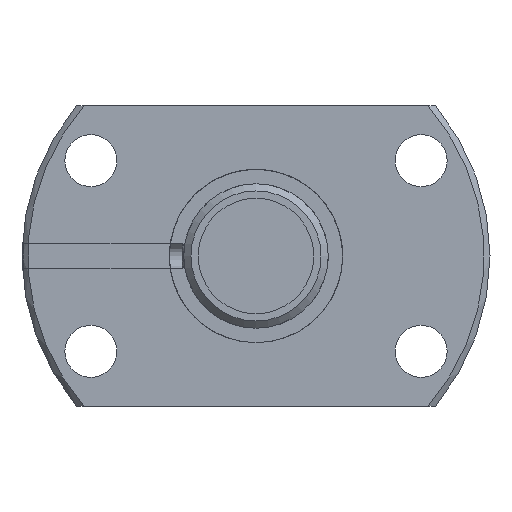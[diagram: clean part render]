
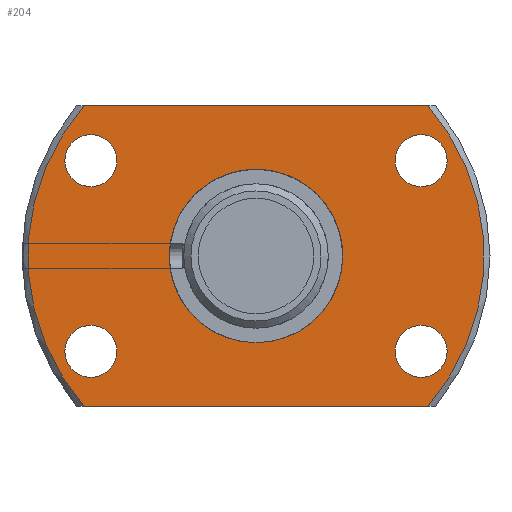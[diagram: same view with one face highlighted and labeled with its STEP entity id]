
A CAD part, left-side view. The second image highlights one B-rep face of the part: STEP entity #204.
In plain terms, the highlighted planar face has unit normal (-1, 0, 0).
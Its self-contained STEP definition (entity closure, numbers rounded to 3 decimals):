
#204 = ADVANCED_FACE( '', ( #312, #313, #314, #315, #316, #317 ), #318, .T. );
#312 = FACE_BOUND( '', #430, .T. );
#313 = FACE_OUTER_BOUND( '', #431, .T. );
#314 = FACE_BOUND( '', #432, .T. );
#315 = FACE_BOUND( '', #433, .T. );
#316 = FACE_BOUND( '', #434, .T. );
#317 = FACE_BOUND( '', #435, .T. );
#318 = PLANE( '', #436 );
#430 = EDGE_LOOP( '', ( #649 ) );
#431 = EDGE_LOOP( '', ( #650, #651, #652, #653 ) );
#432 = EDGE_LOOP( '', ( #654 ) );
#433 = EDGE_LOOP( '', ( #655 ) );
#434 = EDGE_LOOP( '', ( #656 ) );
#435 = EDGE_LOOP( '', ( #657 ) );
#436 = AXIS2_PLACEMENT_3D( '', #658, #659, #660 );
#649 = ORIENTED_EDGE( '', *, *, #732, .T. );
#650 = ORIENTED_EDGE( '', *, *, #754, .F. );
#651 = ORIENTED_EDGE( '', *, *, #717, .F. );
#652 = ORIENTED_EDGE( '', *, *, #723, .F. );
#653 = ORIENTED_EDGE( '', *, *, #755, .F. );
#654 = ORIENTED_EDGE( '', *, *, #709, .T. );
#655 = ORIENTED_EDGE( '', *, *, #711, .T. );
#656 = ORIENTED_EDGE( '', *, *, #713, .T. );
#657 = ORIENTED_EDGE( '', *, *, #715, .T. );
#658 = CARTESIAN_POINT( '', ( 0., 78.975, 0. ) );
#659 = DIRECTION( '', ( -1., 0., 0. ) );
#660 = DIRECTION( '', ( 0., 0., 1. ) );
#709 = EDGE_CURVE( '', #788, #788, #789, .T. );
#711 = EDGE_CURVE( '', #792, #792, #793, .T. );
#713 = EDGE_CURVE( '', #796, #796, #797, .T. );
#715 = EDGE_CURVE( '', #800, #800, #801, .T. );
#717 = EDGE_CURVE( '', #802, #805, #806, .T. );
#723 = EDGE_CURVE( '', #815, #802, #817, .T. );
#732 = EDGE_CURVE( '', #832, #832, #833, .T. );
#754 = EDGE_CURVE( '', #805, #870, #871, .T. );
#755 = EDGE_CURVE( '', #870, #815, #872, .T. );
#788 = VERTEX_POINT( '', #972 );
#789 = CIRCLE( '', #973, 9. );
#792 = VERTEX_POINT( '', #976 );
#793 = CIRCLE( '', #977, 9. );
#796 = VERTEX_POINT( '', #980 );
#797 = CIRCLE( '', #981, 9. );
#800 = VERTEX_POINT( '', #984 );
#801 = CIRCLE( '', #985, 9. );
#802 = VERTEX_POINT( '', #986 );
#805 = VERTEX_POINT( '', #992 );
#806 = CIRCLE( '', #993, 78.975 );
#815 = VERTEX_POINT( '', #1009 );
#817 = LINE( '', #1014, #1015 );
#832 = VERTEX_POINT( '', #1071 );
#833 = CIRCLE( '', #1072, 30. );
#870 = VERTEX_POINT( '', #1150 );
#871 = LINE( '', #1151, #1152 );
#872 = CIRCLE( '', #1153, 78.975 );
#972 = CARTESIAN_POINT( '', ( 0., 57.158, -42. ) );
#973 = AXIS2_PLACEMENT_3D( '', #1201, #1202, #1203 );
#976 = CARTESIAN_POINT( '', ( 0., -57.158, -42. ) );
#977 = AXIS2_PLACEMENT_3D( '', #1207, #1208, #1209 );
#980 = CARTESIAN_POINT( '', ( 0., -57.158, 24. ) );
#981 = AXIS2_PLACEMENT_3D( '', #1213, #1214, #1215 );
#984 = CARTESIAN_POINT( '', ( 0., 57.158, 24. ) );
#985 = AXIS2_PLACEMENT_3D( '', #1219, #1220, #1221 );
#986 = CARTESIAN_POINT( '', ( 0., 59.439, -52. ) );
#992 = CARTESIAN_POINT( '', ( 0., 59.439, 52. ) );
#993 = AXIS2_PLACEMENT_3D( '', #1222, #1223, #1224 );
#1009 = CARTESIAN_POINT( '', ( 0., -59.439, -52. ) );
#1014 = CARTESIAN_POINT( '', ( 0., -81.1, -52. ) );
#1015 = VECTOR( '', #1229, 1000. );
#1071 = CARTESIAN_POINT( '', ( 0., 0., -30. ) );
#1072 = AXIS2_PLACEMENT_3D( '', #1241, #1242, #1243 );
#1150 = CARTESIAN_POINT( '', ( 0., -59.439, 52. ) );
#1151 = CARTESIAN_POINT( '', ( 0., 81.1, 52. ) );
#1152 = VECTOR( '', #1287, 1000. );
#1153 = AXIS2_PLACEMENT_3D( '', #1288, #1289, #1290 );
#1201 = CARTESIAN_POINT( '', ( 0., 57.158, -33. ) );
#1202 = DIRECTION( '', ( 1., 0., 0. ) );
#1203 = DIRECTION( '', ( 0., 0., -1. ) );
#1207 = CARTESIAN_POINT( '', ( 0., -57.158, -33. ) );
#1208 = DIRECTION( '', ( 1., 0., 0. ) );
#1209 = DIRECTION( '', ( 0., 0., -1. ) );
#1213 = CARTESIAN_POINT( '', ( 0., -57.158, 33. ) );
#1214 = DIRECTION( '', ( 1., 0., 0. ) );
#1215 = DIRECTION( '', ( 0., 0., -1. ) );
#1219 = CARTESIAN_POINT( '', ( 0., 57.158, 33. ) );
#1220 = DIRECTION( '', ( 1., 0., 0. ) );
#1221 = DIRECTION( '', ( 0., 0., -1. ) );
#1222 = CARTESIAN_POINT( '', ( 0., 0., 0. ) );
#1223 = DIRECTION( '', ( 1., 0., 0. ) );
#1224 = DIRECTION( '', ( 0., 0., -1. ) );
#1229 = DIRECTION( '', ( 0., 1., 0. ) );
#1241 = CARTESIAN_POINT( '', ( 0., 0., 0. ) );
#1242 = DIRECTION( '', ( 1., 0., 0. ) );
#1243 = DIRECTION( '', ( 0., 0., -1. ) );
#1287 = DIRECTION( '', ( 0., -1., 0. ) );
#1288 = CARTESIAN_POINT( '', ( 0., 0., 0. ) );
#1289 = DIRECTION( '', ( 1., 0., 0. ) );
#1290 = DIRECTION( '', ( 0., 0., -1. ) );
